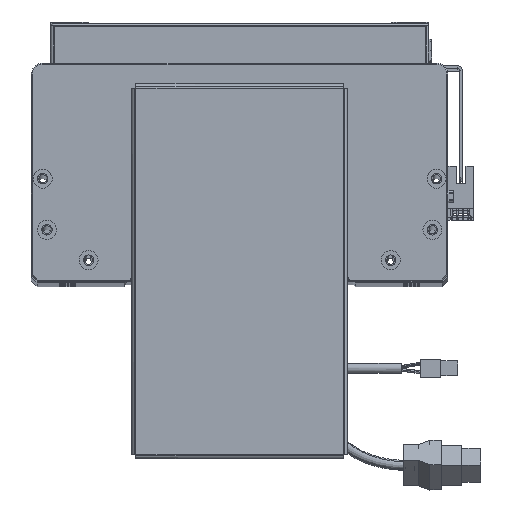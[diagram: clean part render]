
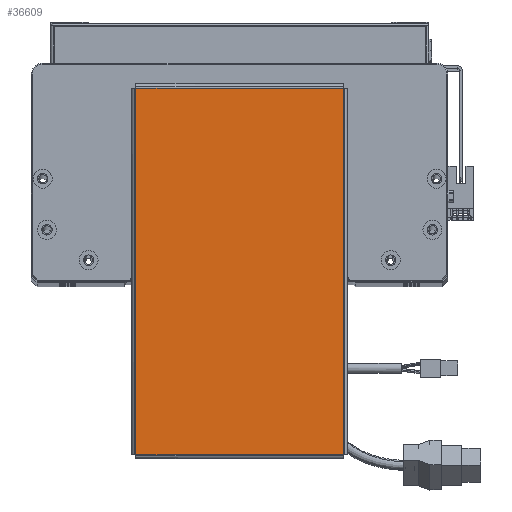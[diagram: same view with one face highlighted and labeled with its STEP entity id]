
A CAD part, top view. The second image highlights one B-rep face of the part: STEP entity #36609.
In plain terms, the highlighted planar face has unit normal (0, 0, 1).
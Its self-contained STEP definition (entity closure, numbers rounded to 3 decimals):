
#1628 = LINE ( 'NONE', #35999, #55097 ) ;
#4445 = EDGE_LOOP ( 'NONE', ( #15334, #33938, #35754, #49565 ) ) ;
#11113 = EDGE_CURVE ( 'NONE', #39554, #58513, #49645, .T. ) ;
#11203 = FACE_OUTER_BOUND ( 'NONE', #4445, .T. ) ;
#14450 = VERTEX_POINT ( 'NONE', #52250 ) ;
#15334 = ORIENTED_EDGE ( 'NONE', *, *, #42788, .T. ) ;
#18840 = CARTESIAN_POINT ( 'NONE',  ( 96.763, 54.763, 0. ) ) ;
#19165 = LINE ( 'NONE', #26521, #49031 ) ;
#26521 = CARTESIAN_POINT ( 'NONE',  ( 96.763, -54.793, 0. ) ) ;
#28349 = VERTEX_POINT ( 'NONE', #18840 ) ;
#30380 = DIRECTION ( 'NONE',  ( -1., 0., 0. ) ) ;
#30835 = EDGE_CURVE ( 'NONE', #14450, #28349, #19165, .T. ) ;
#33380 = PLANE ( 'NONE',  #42847 ) ;
#33711 = CARTESIAN_POINT ( 'NONE',  ( -96.763, -54.763, 0. ) ) ;
#33938 = ORIENTED_EDGE ( 'NONE', *, *, #30835, .T. ) ;
#34312 = EDGE_CURVE ( 'NONE', #28349, #39554, #49508, .T. ) ;
#35754 = ORIENTED_EDGE ( 'NONE', *, *, #34312, .T. ) ;
#35885 = VECTOR ( 'NONE', #40244, 1000. ) ;
#35999 = CARTESIAN_POINT ( 'NONE',  ( -96.793, -54.763, 0. ) ) ;
#36609 = ADVANCED_FACE ( 'NONE', ( #11203 ), #33380, .T. ) ;
#39248 = DIRECTION ( 'NONE',  ( 1., 0., 0. ) ) ;
#39554 = VERTEX_POINT ( 'NONE', #44134 ) ;
#40244 = DIRECTION ( 'NONE',  ( 0., -1., 0. ) ) ;
#42788 = EDGE_CURVE ( 'NONE', #58513, #14450, #1628, .T. ) ;
#42847 = AXIS2_PLACEMENT_3D ( 'NONE', #54858, #64574, #39248 ) ;
#43877 = VECTOR ( 'NONE', #30380, 1000. ) ;
#44134 = CARTESIAN_POINT ( 'NONE',  ( -96.763, 54.763, 0. ) ) ;
#49031 = VECTOR ( 'NONE', #62875, 1000. ) ;
#49508 = LINE ( 'NONE', #55872, #43877 ) ;
#49565 = ORIENTED_EDGE ( 'NONE', *, *, #11113, .T. ) ;
#49645 = LINE ( 'NONE', #59501, #35885 ) ;
#52250 = CARTESIAN_POINT ( 'NONE',  ( 96.763, -54.763, 0. ) ) ;
#54858 = CARTESIAN_POINT ( 'NONE',  ( 0., 0., 0. ) ) ;
#55097 = VECTOR ( 'NONE', #66552, 1000. ) ;
#55872 = CARTESIAN_POINT ( 'NONE',  ( 96.793, 54.763, 0. ) ) ;
#58513 = VERTEX_POINT ( 'NONE', #33711 ) ;
#59501 = CARTESIAN_POINT ( 'NONE',  ( -96.763, 54.793, 0. ) ) ;
#62875 = DIRECTION ( 'NONE',  ( 0., 1., 0. ) ) ;
#64574 = DIRECTION ( 'NONE',  ( 0., 0., 1. ) ) ;
#66552 = DIRECTION ( 'NONE',  ( 1., 0., 0. ) ) ;
